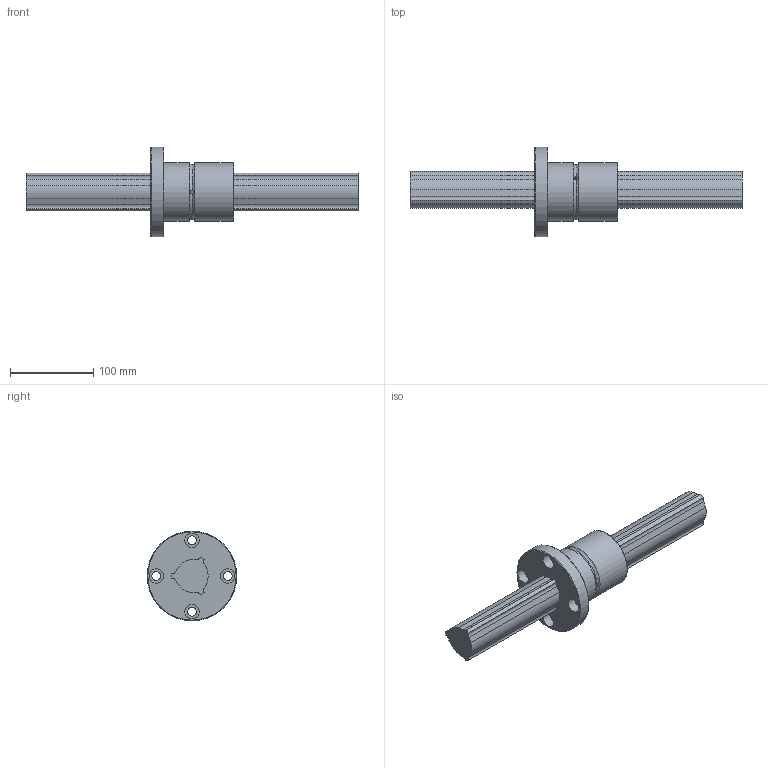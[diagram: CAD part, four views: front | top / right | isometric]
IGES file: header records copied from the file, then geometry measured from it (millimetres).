
Start section: Data from Parasolid IGES Translator 26.0.171, Copyright(c) 2006 Siemens PLM Software. All Rights Reserved.
Global section: file name: LBF50+400L(4001500).igs; native system: By Siemens PLM Incorporated; preprocessor: XPlus GENERIC/IGES 26.0.171; author: Noname; organization: Noname; date: 20240528.034052; units: millimetre
Bounding box: 400 x 108 x 108 mm (x, y, z)
Surface area: 116602.4 mm2 (no closed solid volume)
Topology: 0 solids, 0 shells, 71 faces, 396 edges, 386 vertices
Faces by surface type: revolution 47, extrusion 24
